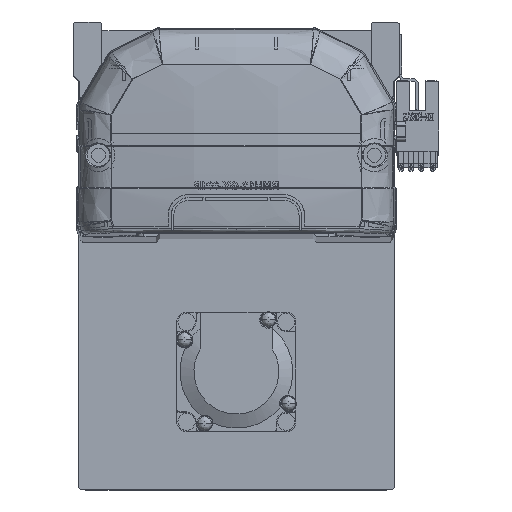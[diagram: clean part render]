
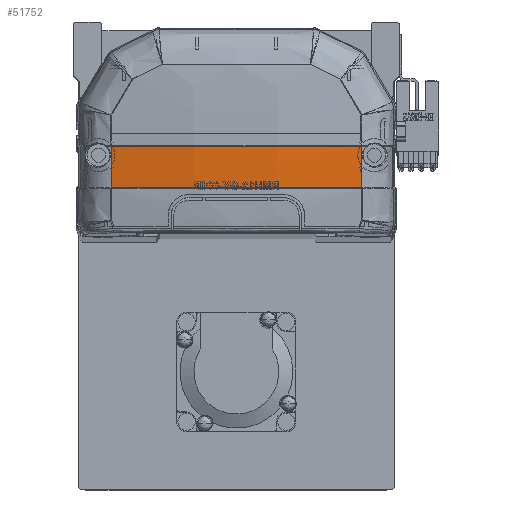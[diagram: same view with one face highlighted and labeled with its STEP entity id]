
A CAD part, top view. The second image highlights one B-rep face of the part: STEP entity #51752.
In plain terms, the highlighted free-form (B-spline) face has degree [3, 3] with [4, 4] control points.
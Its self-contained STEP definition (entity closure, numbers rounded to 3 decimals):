
#1154 = CARTESIAN_POINT ( 'NONE',  ( 40.461, 20.111, -6.066 ) ) ;
#1916 = CARTESIAN_POINT ( 'NONE',  ( -26.721, 15.83, -7.624 ) ) ;
#2385 = ORIENTED_EDGE ( 'NONE', *, *, #19500, .T. ) ;
#3291 = CARTESIAN_POINT ( 'NONE',  ( 39.973, 20.12, -6.142 ) ) ;
#4100 = ORIENTED_EDGE ( 'NONE', *, *, #9559, .F. ) ;
#4765 =( BOUNDED_SURFACE ( )  B_SPLINE_SURFACE ( 3, 3, ( 
 ( #37650, #1154, #47008, #5356 ),
 ( #42400, #37441, #33229, #51642 ),
 ( #37848, #29047, #32658, #41816 ),
 ( #9746, #14370, #55729, #10342 ) ),
 .UNSPECIFIED., .F., .F., .F. ) 
 B_SPLINE_SURFACE_WITH_KNOTS ( ( 4, 4 ),
 ( 4, 4 ),
 ( 0., 1. ),
 ( 0., 1. ),
 .UNSPECIFIED. ) 
 GEOMETRIC_REPRESENTATION_ITEM ( )  RATIONAL_B_SPLINE_SURFACE ( (
 ( 1., 1., 1., 1.),
 ( 0.992, 0.992, 0.992, 0.992),
 ( 0.992, 0.992, 0.992, 0.992),
 ( 1., 1., 1., 1.) ) ) 
 REPRESENTATION_ITEM ( '' )  SURFACE ( )  );
#5082 = CARTESIAN_POINT ( 'NONE',  ( -39.963, 28.706, -6.372 ) ) ;
#5356 = CARTESIAN_POINT ( 'NONE',  ( 40.461, 28.832, -6.296 ) ) ;
#7067 = B_SPLINE_CURVE_WITH_KNOTS ( 'NONE', 3,
 ( #44346, #3291, #58664, #58253 ),
 .UNSPECIFIED., .F., .F.,
 ( 4, 4 ),
 ( 0., 1. ),
 .UNSPECIFIED. ) ;
#7299 = CARTESIAN_POINT ( 'NONE',  ( 39.963, 28.706, -6.372 ) ) ;
#7883 = VERTEX_POINT ( 'NONE', #37748 ) ;
#9497 = CARTESIAN_POINT ( 'NONE',  ( -39.963, 28.706, -6.372 ) ) ;
#9559 = EDGE_CURVE ( 'NONE', #7883, #52128, #42191, .T. ) ;
#9746 = CARTESIAN_POINT ( 'NONE',  ( -40.461, 15.757, -5.8 ) ) ;
#10261 = CARTESIAN_POINT ( 'NONE',  ( -6.692, 15.83, -8.984 ) ) ;
#10342 = CARTESIAN_POINT ( 'NONE',  ( -40.461, 28.832, -6.296 ) ) ;
#10474 = CARTESIAN_POINT ( 'NONE',  ( -13.384, 15.83, -8.724 ) ) ;
#13689 = CARTESIAN_POINT ( 'NONE',  ( -39.985, 15.83, -5.879 ) ) ;
#14370 = CARTESIAN_POINT ( 'NONE',  ( -40.461, 20.111, -6.066 ) ) ;
#14489 = CARTESIAN_POINT ( 'NONE',  ( 39.985, 15.83, -5.879 ) ) ;
#16752 = B_SPLINE_CURVE_WITH_KNOTS ( 'NONE', 3,
 ( #5082, #55254, #40163, #23587 ),
 .UNSPECIFIED., .F., .F.,
 ( 4, 4 ),
 ( 0., 1. ),
 .UNSPECIFIED. ) ;
#17754 = CARTESIAN_POINT ( 'NONE',  ( 39.963, 28.706, -6.372 ) ) ;
#18620 = B_SPLINE_CURVE_WITH_KNOTS ( 'NONE', 3,
 ( #39596, #48766, #21391, #35590, #49376, #7299 ),
 .UNSPECIFIED., .F., .F.,
 ( 4, 2, 4 ),
 ( 0., 0.5, 1. ),
 .UNSPECIFIED. ) ;
#19500 = EDGE_CURVE ( 'NONE', #37827, #52128, #16752, .T. ) ;
#20999 = FACE_OUTER_BOUND ( 'NONE', #39033, .T. ) ;
#21391 = CARTESIAN_POINT ( 'NONE',  ( -13.373, 28.707, -9.468 ) ) ;
#23587 = CARTESIAN_POINT ( 'NONE',  ( -39.985, 15.83, -5.879 ) ) ;
#29047 = CARTESIAN_POINT ( 'NONE',  ( -13.598, 19.918, -10.302 ) ) ;
#32658 = CARTESIAN_POINT ( 'NONE',  ( -13.598, 24.342, -10.47 ) ) ;
#33159 = CARTESIAN_POINT ( 'NONE',  ( -39.985, 15.83, -5.879 ) ) ;
#33229 = CARTESIAN_POINT ( 'NONE',  ( 13.598, 24.342, -10.47 ) ) ;
#35402 = EDGE_CURVE ( 'NONE', #37827, #57828, #18620, .T. ) ;
#35590 = CARTESIAN_POINT ( 'NONE',  ( 13.375, 28.707, -9.468 ) ) ;
#37441 = CARTESIAN_POINT ( 'NONE',  ( 13.598, 19.918, -10.302 ) ) ;
#37650 = CARTESIAN_POINT ( 'NONE',  ( 40.461, 15.757, -5.8 ) ) ;
#37748 = CARTESIAN_POINT ( 'NONE',  ( 39.985, 15.83, -5.879 ) ) ;
#37767 = CARTESIAN_POINT ( 'NONE',  ( 13.38, 15.83, -8.984 ) ) ;
#37827 = VERTEX_POINT ( 'NONE', #9497 ) ;
#37848 = CARTESIAN_POINT ( 'NONE',  ( -13.598, 15.499, -10.032 ) ) ;
#38979 = ORIENTED_EDGE ( 'NONE', *, *, #35402, .F. ) ;
#39033 = EDGE_LOOP ( 'NONE', ( #49527, #38979, #2385, #4100 ) ) ;
#39596 = CARTESIAN_POINT ( 'NONE',  ( -39.963, 28.706, -6.372 ) ) ;
#40163 = CARTESIAN_POINT ( 'NONE',  ( -39.973, 20.118, -6.142 ) ) ;
#41816 = CARTESIAN_POINT ( 'NONE',  ( -13.598, 28.769, -10.535 ) ) ;
#42191 = B_SPLINE_CURVE_WITH_KNOTS ( 'NONE', 3,
 ( #14489, #51389, #37767, #10261, #10474, #57048, #1916, #56582, #42873, #13689 ),
 .UNSPECIFIED., .F., .F.,
 ( 4, 2, 2, 2, 4 ),
 ( 0., 0.04, 0.06, 0.07, 0.08 ),
 .UNSPECIFIED. ) ;
#42400 = CARTESIAN_POINT ( 'NONE',  ( 13.598, 15.499, -10.032 ) ) ;
#42873 = CARTESIAN_POINT ( 'NONE',  ( -36.679, 15.83, -6.395 ) ) ;
#44346 = CARTESIAN_POINT ( 'NONE',  ( 39.985, 15.83, -5.879 ) ) ;
#47008 = CARTESIAN_POINT ( 'NONE',  ( 40.461, 24.47, -6.231 ) ) ;
#48766 = CARTESIAN_POINT ( 'NONE',  ( -26.748, 28.706, -8.432 ) ) ;
#49376 = CARTESIAN_POINT ( 'NONE',  ( 26.749, 28.706, -8.432 ) ) ;
#49527 = ORIENTED_EDGE ( 'NONE', *, *, #55059, .T. ) ;
#51389 = CARTESIAN_POINT ( 'NONE',  ( 26.761, 15.83, -7.945 ) ) ;
#51642 = CARTESIAN_POINT ( 'NONE',  ( 13.598, 28.769, -10.535 ) ) ;
#51752 = ADVANCED_FACE ( 'NONE', ( #20999 ), #4765, .F. ) ;
#52128 = VERTEX_POINT ( 'NONE', #33159 ) ;
#55059 = EDGE_CURVE ( 'NONE', #7883, #57828, #7067, .T. ) ;
#55254 = CARTESIAN_POINT ( 'NONE',  ( -39.966, 24.412, -6.306 ) ) ;
#55729 = CARTESIAN_POINT ( 'NONE',  ( -40.461, 24.47, -6.231 ) ) ;
#56582 = CARTESIAN_POINT ( 'NONE',  ( -33.365, 15.83, -6.848 ) ) ;
#57048 = CARTESIAN_POINT ( 'NONE',  ( -23.389, 15.83, -7.947 ) ) ;
#57828 = VERTEX_POINT ( 'NONE', #17754 ) ;
#58253 = CARTESIAN_POINT ( 'NONE',  ( 39.963, 28.706, -6.372 ) ) ;
#58664 = CARTESIAN_POINT ( 'NONE',  ( 39.966, 24.413, -6.306 ) ) ;
